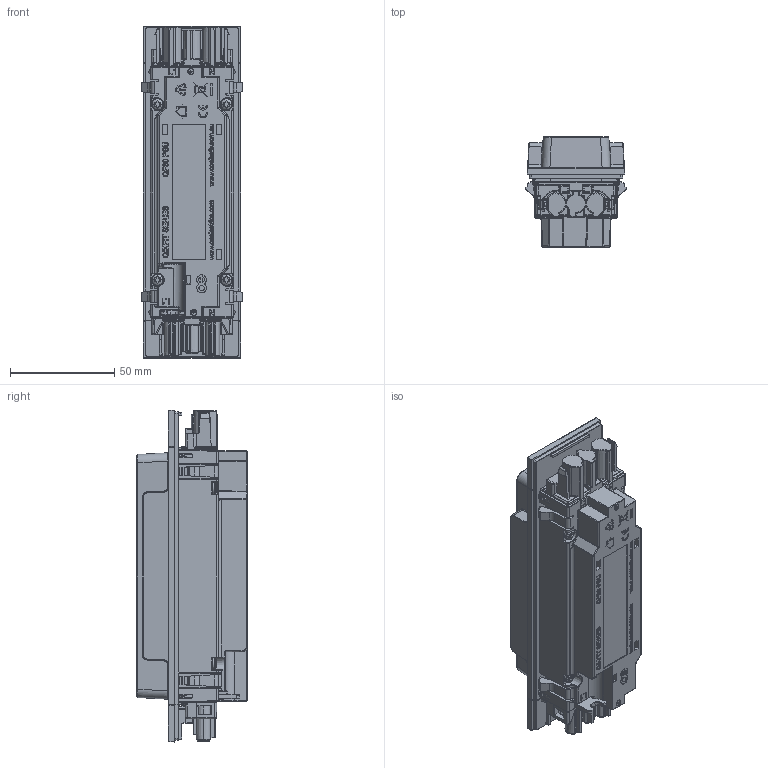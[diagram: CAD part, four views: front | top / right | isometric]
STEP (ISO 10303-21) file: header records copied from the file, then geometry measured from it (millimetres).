
FILE_DESCRIPTION (( 'STEP AP203' ), '1' );
FILE_NAME ('QIKFIT PSU 150W.STEP', '2026-03-19T16:59:40', ( '' ), ( '' ), 'SwSTEP 2.0', 'SolidWorks 2024', '' );
FILE_SCHEMA (( 'CONFIG_CONTROL_DESIGN' ));
Products named in the file (1): QIKFIT PSU 150W
Bounding box: 48.4 x 52.8 x 159 mm (x, y, z)
Volume: 251185.9 mm3; surface area: 42816.8 mm2
Topology: 1 solids, 23 shells, 4073 faces, 10239 edges, 6257 vertices
Faces by surface type: plane 1539, cylinder 1123, bspline 990, sphere 212, torus 140, cone 69
Entity records: 146002 total; most frequent: CARTESIAN_POINT 57733, ORIENTED_EDGE 20294, DIRECTION 15846, EDGE_CURVE 10147, VERTEX_POINT 6241, VECTOR 5408, LINE 5408, AXIS2_PLACEMENT_3D 5219
